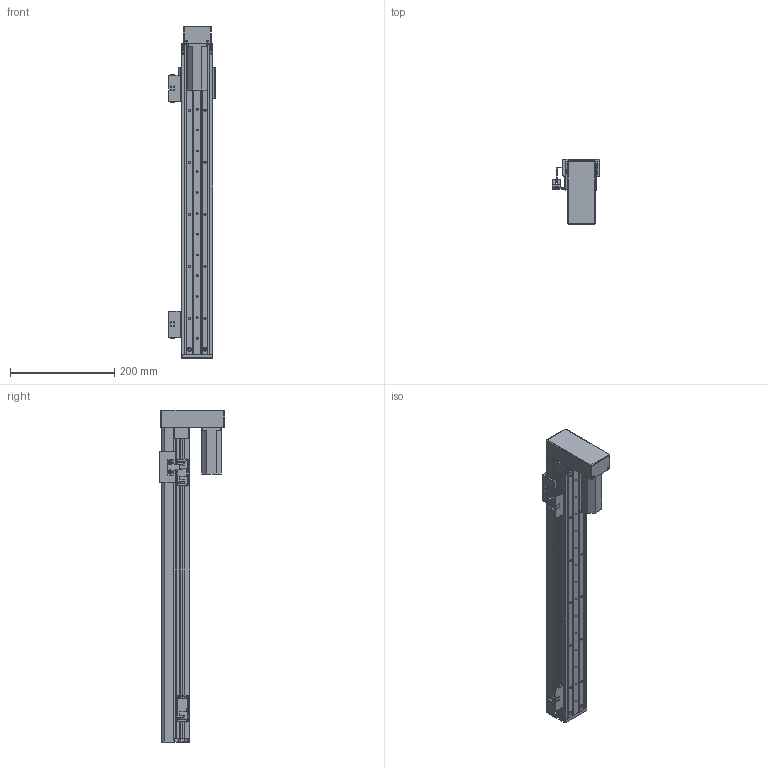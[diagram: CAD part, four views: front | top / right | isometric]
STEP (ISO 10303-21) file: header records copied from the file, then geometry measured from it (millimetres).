
FILE_DESCRIPTION (( 'STEP AP203' ), '1' );
FILE_NAME ('RY60FB-L1210-300-BK.SLDASM_450.step', '2021-02-23T00:55:26', ( '盈信电脑' ), ( '东莞市道滘镇水果街19号' ), 'SwSTEP 2.0', 'SolidWorks 2012', '' );
FILE_SCHEMA (( 'CONFIG_CONTROL_DESIGN' ));
Length unit declared in the file: millimetre
Products named in the file (15): RY60FB-蛌殏萇儂欶; RY60FB-L1210-300-BK.SLDASM_450; RY60FB-674嫖萇耀輸; RY60FB-狟殏萇儂假蚾啣; 覜茼ん674; RY60FB-感应器674光电安装座; RY60FB綴裔啣; 侂狟100W; RY60FB转折电机端支撑座; RY80俋离覜茼え; RY60FB-臏賑輸; RY60FB-蛌殏菁釱-300-BK_450; 滅袉蝶18-10; RY60FB-蛌殏奻裔-300-BK_450
Assembly tree (20 placements, depth 3):
  RY60FB-L1210-300-BK.SLDASM_450
    RY60FB-蛌殏菁釱-300-BK_450
    RY60FB-臏賑輸
    滅袉蝶18-10  x4
    RY60FB-蛌殏奻裔-300-BK_450
    侂狟100W
    RY60FB綴裔啣
    RY60FB转折电机端支撑座
    RY80俋离覜茼え
    RY60FB-674嫖萇耀輸
      RY60FB-感应器674光电安装座
      覜茼ん674  x2
    RY60FB-674嫖萇耀輸
      RY60FB-感应器674光电安装座
      覜茼ん674
    RY60FB-狟殏萇儂假蚾啣
    RY60FB-蛌殏萇儂欶
Bounding box: 90 x 125.45 x 638 mm (x, y, z)
Volume: 866534.1 mm3; surface area: 477378.2 mm2
Topology: 18 solids, 18 shells, 1093 faces, 2980 edges, 1896 vertices
Faces by surface type: plane 529, cylinder 459, cone 97, bspline 8
Entity records: 31425 total; most frequent: CARTESIAN_POINT 6117, DIRECTION 4972, ORIENTED_EDGE 4856, EDGE_CURVE 2428, AXIS2_PLACEMENT_3D 1739, VERTEX_POINT 1572, VECTOR 1494, LINE 1494
